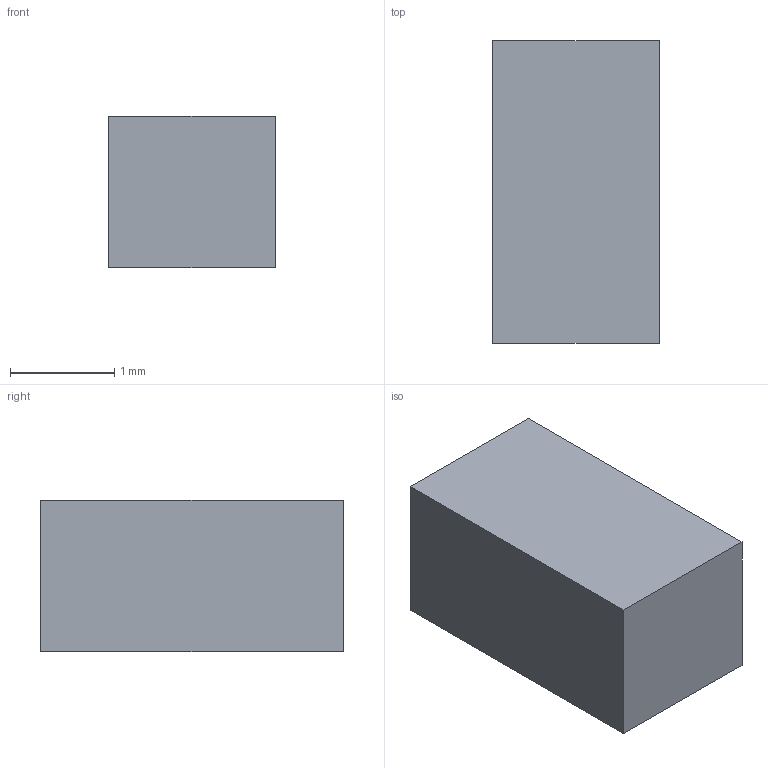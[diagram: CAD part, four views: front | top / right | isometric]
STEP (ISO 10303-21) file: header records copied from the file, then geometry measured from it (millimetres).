
FILE_DESCRIPTION(('SOT-23-5 (comparator) -- body envelope 1.45 mm tall (SOT-23-5 maximum seated height)'),'2;1');
FILE_NAME('SOT-23-5','2026-09-08T00:00:00',('TI One Voice research programme'),(''),'EEG-CAR-01 step_write.py','','CC BY-SA 4.0');
FILE_SCHEMA(('AUTOMOTIVE_DESIGN { 1 0 10303 214 1 1 1 1 }'));
Length unit declared in the file: millimetre
Products named in the file (1): SOT-23-5
Bounding box: 1.6 x 2.9 x 1.45 mm (x, y, z)
Volume: 6.7 mm3; surface area: 22.3 mm2
Topology: 1 solids, 1 shells, 6 faces, 12 edges, 8 vertices
Faces by surface type: plane 6
Entity records: 67 total; most frequent: DIRECTION 14, CARTESIAN_POINT 9, AXIS2_PLACEMENT_3D 7, POLY_LOOP 6, FACE_OUTER_BOUND 6, PLANE 6, FACE_SURFACE 6, UNCERTAINTY_MEASURE_WITH_UNIT 1
